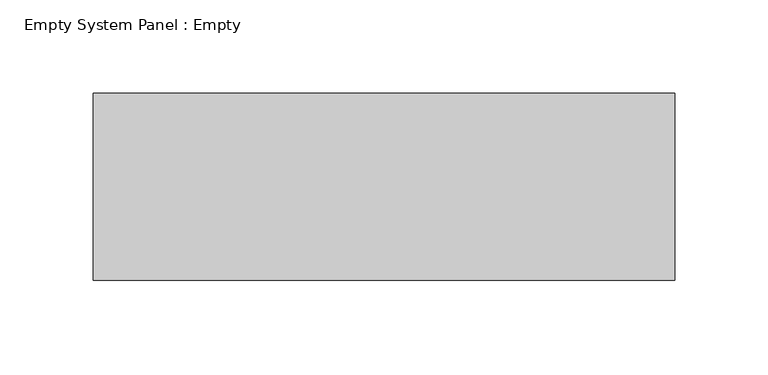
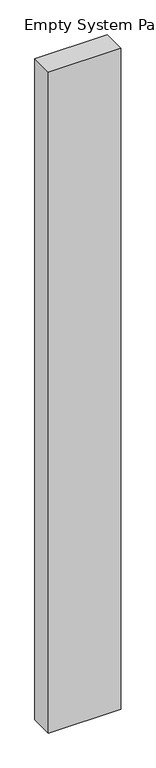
"""IFC4 building model written with IfcOpenShell, lengths in millimetres: plate geometry, Empty System Panel : Empty."""

from ifc_helpers import new_model, si_unit, origin, origin_with_axes, place, context, project, spatial, polyline, outline, extrude, source, transform, mapped, element, save


def empty_system_panel_empty_c4966de9(model_context):
    return source(origin(), model_context, "Body", "SweptSolid", [
        extrude(outline(polyline([(155.4522728, -50.0), (-155.4522728, -50.0), (-155.4522728, 50.0), (155.4522728, 50.0), (155.4522728, -50.0)])), origin_with_axes(), (0.0, 0.0, 1.0), 3000.0),
    ])


if __name__ == "__main__":
    model = new_model("IFC4")
    model_context = context("Model", 3, world=origin())
    ifc_project = project(units=[si_unit("LENGTHUNIT", "METRE", prefix="MILLI")], contexts=[model_context])
    site = spatial("IfcSite", under=ifc_project)
    building = spatial("IfcBuilding", under=site)
    placement = place(None, origin())
    empty_system_panel_empty_shape = empty_system_panel_empty_c4966de9(model_context)
    element("IfcPlate", 1, ObjectType="Empty System Panel : Empty", at=placement, inside=building, context=model_context, shape_type="MappedRepresentation", body=[
        mapped(empty_system_panel_empty_shape, transform((0.0, 0.0, 0.0), x_axis=(1.0, 0.0, 0.0), y_axis=(0.0, 1.0, 0.0), z_axis=(0.0, 0.0, 1.0))),
    ])
    save(model, "model.ifc")
